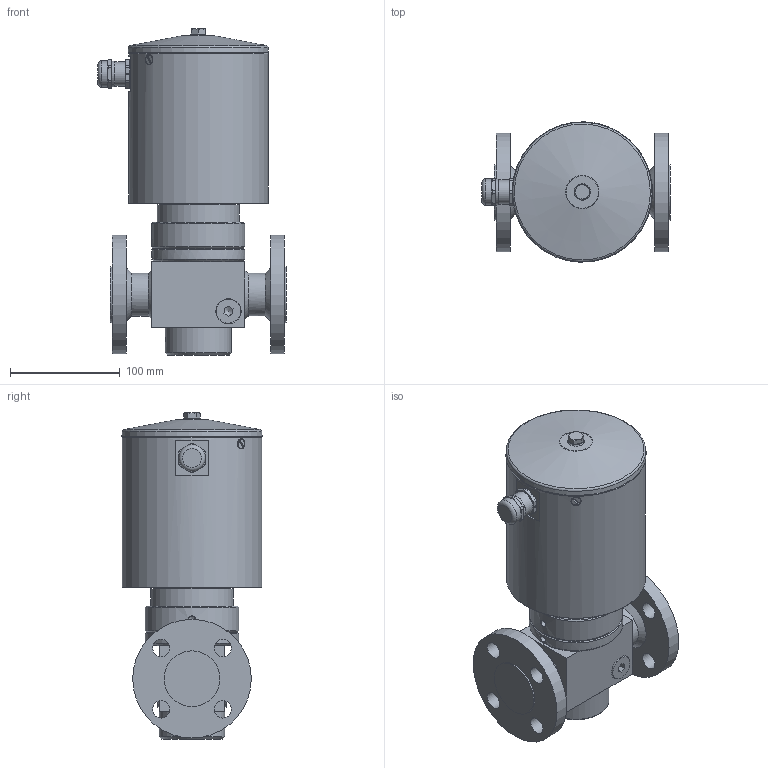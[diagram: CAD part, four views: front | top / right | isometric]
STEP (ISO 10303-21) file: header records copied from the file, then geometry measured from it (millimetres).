
FILE_DESCRIPTION((''),'2;1');
FILE_NAME('G:\CAD-Download\EVO\10-EVO 10-4R.02.stp','2009-11-10T10:54:15',('hb'),(''),'Autodesk Inventor 2008','Autodesk Inventor 2008','');
FILE_SCHEMA(('AUTOMOTIVE_DESIGN { 1 0 10303 214 1 1 1 1 }'));
Length unit declared in the file: millimetre
Products named in the file (1): 10-EVO 10-4R
Bounding box: 171.5 x 127.89 x 297.1 mm (x, y, z)
Volume: 2811676.3 mm3; surface area: 178005.2 mm2
Topology: 1 solids, 1 shells, 199 faces, 473 edges, 304 vertices
Faces by surface type: plane 89, cylinder 49, cone 45, bspline 12, torus 4
Full cylindrical faces by diameter (mm): 5 x1, 11.63 x1, 15.7 x4, 22 x3, 23 x1, 23.52 x1, 23.98 x1, 39 x2, 50.8 x2, 60 x1, 62 x1, 75 x1, 85 x2, 108 x2, 124 x1, 127 x1
Entity records: 6168 total; most frequent: CARTESIAN_POINT 1870, DIRECTION 850, ORIENTED_EDGE 768, EDGE_CURVE 384, AXIS2_PLACEMENT_3D 352, EDGE_LOOP 304, VERTEX_POINT 276, FACE_OUTER_BOUND 199
